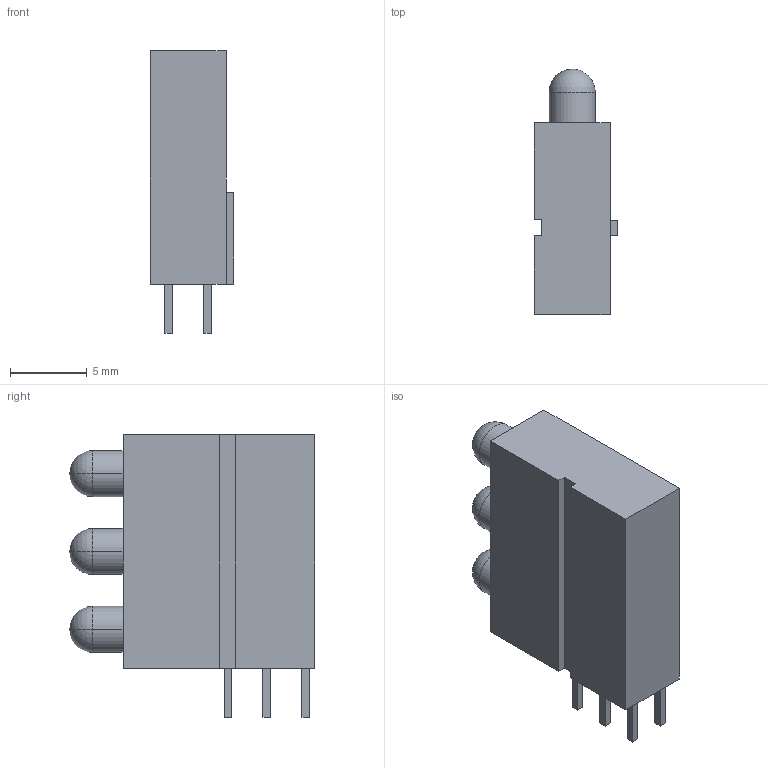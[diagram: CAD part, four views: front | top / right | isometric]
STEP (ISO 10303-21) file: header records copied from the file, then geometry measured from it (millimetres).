
FILE_DESCRIPTION(('FreeCAD Model'),'2;1');
FILE_NAME('C:/D/Lycee/Cours/BTS_SN/0_Projets_2020_2021/0_Modeles_3D_specifiques_projets/LED_RGB_Mentor/LED_RGB_Mentor_1881_xxx0.stp', '2021-03-25T20:01:33',('kicad StepUp'),('ksu MCAD'), 'Open CASCADE STEP processor 7.3','FreeCAD','Unknown');
FILE_SCHEMA(('AUTOMOTIVE_DESIGN { 1 0 10303 214 1 1 1 1 }'));
Length unit declared in the file: millimetre
Products named in the file (1): 1881_8720_LED-Baustein_(dummie)
Bounding box: 5.45 x 16 x 18.44 mm (x, y, z)
Volume: 1006.4 mm3; surface area: 793 mm2
Topology: 1 solids, 1 shells, 56 faces, 138 edges, 87 vertices
Faces by surface type: plane 44, sphere 6, cylinder 6
Entity records: 1998 total; most frequent: CARTESIAN_POINT 276, DIRECTION 264, ORIENTED_EDGE 264, EDGE_CURVE 132, LINE 114, VECTOR 114, VERTEX_POINT 87, AXIS2_PLACEMENT_3D 75
